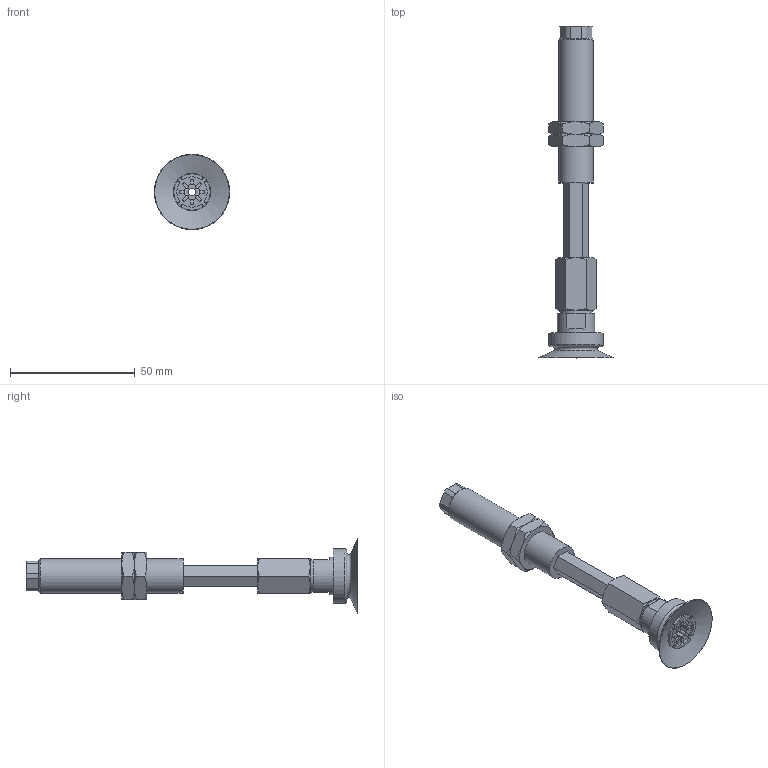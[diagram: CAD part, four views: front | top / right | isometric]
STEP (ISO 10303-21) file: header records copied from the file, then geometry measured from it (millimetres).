
FILE_DESCRIPTION(('STEP AP203'),'1');
FILE_NAME('.stp','2025-08-26T08:06:50',(' '),(' '),'Spatial InterOp 3D',' ',' ');
FILE_SCHEMA(('CONFIG_CONTROL_DESIGN'));
Length unit declared in the file: millimetre
Products named in the file (6): BNABPATH-30-30-※; ADAPTER; NAPATH-30-30--M; Nut-25-S; NAPATH-30-30--F; BPAG-30-※
Assembly tree (6 placements, depth 2):
  BNABPATH-30-30-※
    ADAPTER
    NAPATH-30-30--M
    Nut-25-S  x2
    NAPATH-30-30--F
    BPAG-30-※
Bounding box: 30.3 x 133.2 x 30.3 mm (x, y, z)
Volume: 19950.7 mm3; surface area: 14826.3 mm2
Topology: 6 solids, 6 shells, 192 faces, 453 edges, 286 vertices
Faces by surface type: plane 89, cylinder 55, cone 46, torus 2
Full cylindrical faces by diameter (mm): 3 x3, 4.134 x1, 4.6 x1, 4.917 x1, 6 x1, 12.917 x2, 13 x1, 14 x1, 15 x1, 22 x1
Entity records: 5331 total; most frequent: CARTESIAN_POINT 1146, DIRECTION 837, ORIENTED_EDGE 758, EDGE_CURVE 379, AXIS2_PLACEMENT_3D 330, VERTEX_POINT 255, EDGE_LOOP 214, FACE_OUTER_BOUND 183
